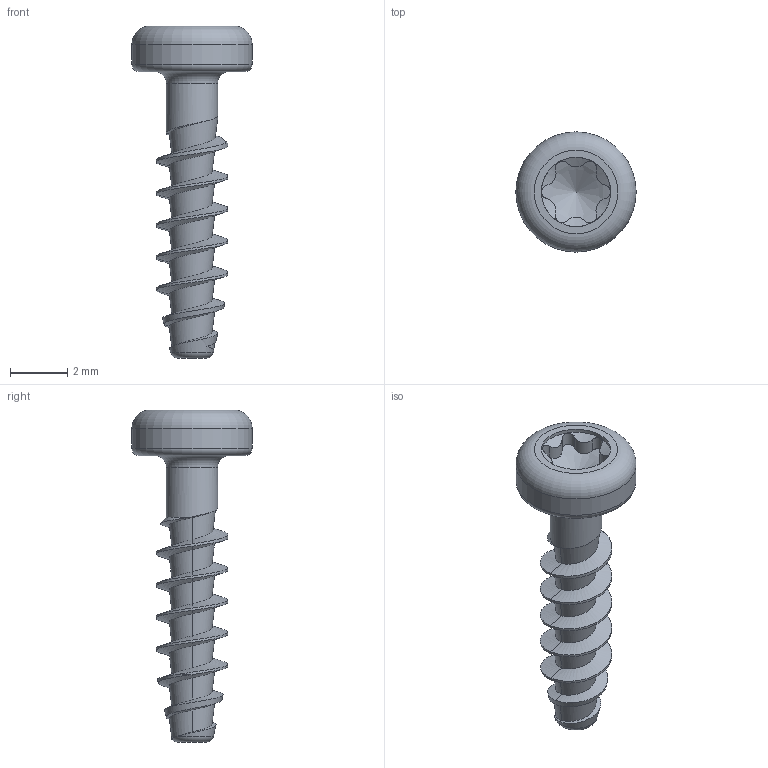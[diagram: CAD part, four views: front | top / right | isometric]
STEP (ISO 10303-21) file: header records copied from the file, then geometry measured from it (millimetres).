
FILE_DESCRIPTION(/* description */ (''),/* implementation_level */ '2;1');
FILE_NAME(/* name */ 'KN1039-STS-25x10-T8.step',/* time_stamp */ '2017-10-17T13:26:21+02:00',/* author */ (''),/* organization */ (''),/* preprocessor_version */ 'ST-DEVELOPER v16',/* originating_system */ 'SIEMENS PLM Software NX 10.0',/* authorisation */ '');
FILE_SCHEMA (('AUTOMOTIVE_DESIGN { 1 0 10303 214 3 1 1 1 }'));
Length unit declared in the file: millimetre
Products named in the file (1): KN1039-STS-25x10-T8
Bounding box: 4.2 x 4.2 x 11.6 mm (x, y, z)
Surface area: 127.9 mm2 (no closed solid volume)
Topology: 0 solids, 1 shells, 51 faces, 129 edges, 80 vertices
Faces by surface type: bspline 24, cylinder 16, cone 4, torus 4, plane 3
Full cylindrical faces by diameter (mm): 1.8 x1, 2.42 x1, 4.2 x1
Entity records: 3321 total; most frequent: CARTESIAN_POINT 2356, ORIENTED_EDGE 224, DIRECTION 115, EDGE_CURVE 112, VERTEX_POINT 74, B_SPLINE_CURVE_WITH_KNOTS 66, EDGE_LOOP 61, ADVANCED_FACE 51
